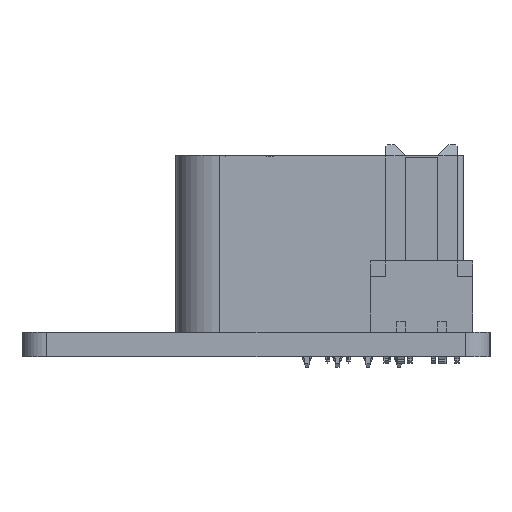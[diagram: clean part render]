
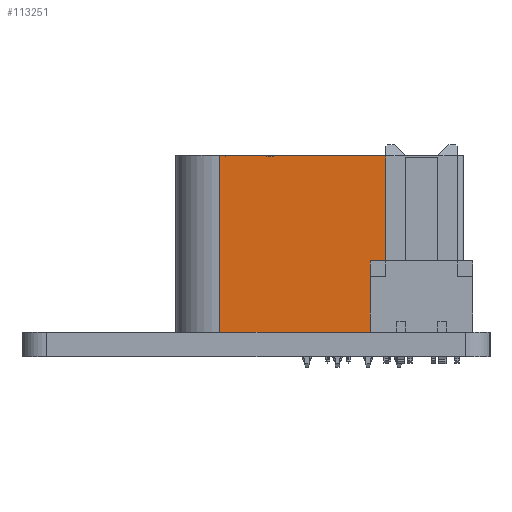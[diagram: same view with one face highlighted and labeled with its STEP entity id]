
A CAD part, left-side view. The second image highlights one B-rep face of the part: STEP entity #113251.
In plain terms, the highlighted planar face has unit normal (-1, 0, 0).
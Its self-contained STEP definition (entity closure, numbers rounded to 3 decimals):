
#51968=DIRECTION('',(0.,0.,-1.));
#51969=VECTOR('',#51968,17.805);
#51970=CARTESIAN_POINT('',(54.585,19.031,55.349));
#51971=LINE('',#51970,#51969);
#54410=DIRECTION('',(0.,-1.,0.));
#54411=VECTOR('',#54410,14.38);
#54412=CARTESIAN_POINT('',(54.585,33.411,55.349));
#54413=LINE('',#54412,#54411);
#54417=DIRECTION('',(0.,1.,0.));
#54418=VECTOR('',#54417,14.38);
#54419=CARTESIAN_POINT('',(54.585,19.031,37.544));
#54420=LINE('',#54419,#54418);
#54462=DIRECTION('',(0.,0.,1.));
#54463=VECTOR('',#54462,17.805);
#54464=CARTESIAN_POINT('',(54.585,33.411,37.544));
#54465=LINE('',#54464,#54463);
#105214=CARTESIAN_POINT('',(54.585,19.031,
37.544));
#105215=CARTESIAN_POINT('',(54.585,33.411,
37.544));
#105216=VERTEX_POINT('',#105214);
#105217=VERTEX_POINT('',#105215);
#107135=CARTESIAN_POINT('',(54.585,19.031,
55.349));
#107136=VERTEX_POINT('',#107135);
#107137=CARTESIAN_POINT('',(54.585,33.411,
55.349));
#107138=VERTEX_POINT('',#107137);
#113238=CARTESIAN_POINT('',(54.585,17.593,
33.555));
#113239=DIRECTION('',(1.,0.,0.));
#113240=DIRECTION('',(0.,0.,1.));
#113241=AXIS2_PLACEMENT_3D('',#113238,#113239,#113240);
#113242=PLANE('',#113241);
#113243=ORIENTED_EDGE('',*,*,#112173,.T.);
#113245=ORIENTED_EDGE('',*,*,#113244,.T.);
#113247=ORIENTED_EDGE('',*,*,#113246,.T.);
#113248=ORIENTED_EDGE('',*,*,#113231,.T.);
#113249=EDGE_LOOP('',(#113243,#113245,#113247,#113248));
#113250=FACE_OUTER_BOUND('',#113249,.F.);
#113251=ADVANCED_FACE('',(#113250),#113242,.F.);
#112173=EDGE_CURVE('',#107136,#105216,#51971,.T.);
#113231=EDGE_CURVE('',#107138,#107136,#54413,.T.);
#113244=EDGE_CURVE('',#105216,#105217,#54420,.T.);
#113246=EDGE_CURVE('',#105217,#107138,#54465,.T.);
